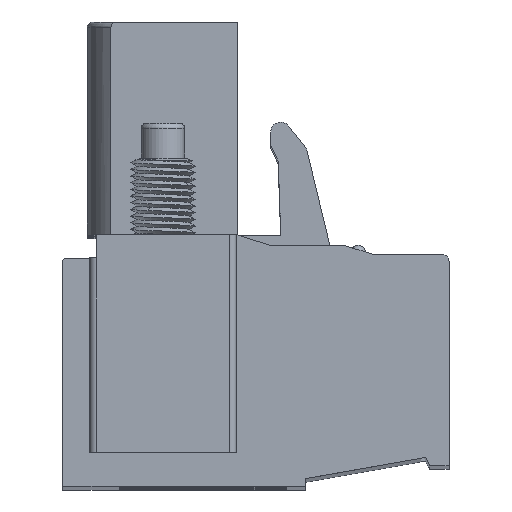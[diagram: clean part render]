
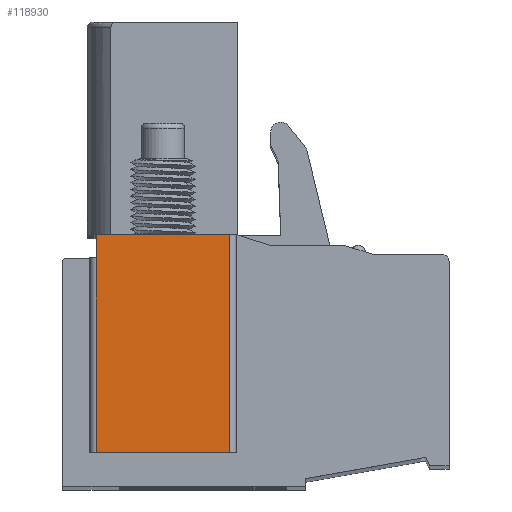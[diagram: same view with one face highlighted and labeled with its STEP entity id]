
A CAD part, top view. The second image highlights one B-rep face of the part: STEP entity #118930.
In plain terms, the highlighted planar face has unit normal (0, 0, 1).
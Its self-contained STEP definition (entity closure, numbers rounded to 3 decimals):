
#118930 = ADVANCED_FACE('',(#118931),#118945,.T.);
#118931 = FACE_BOUND('',#118932,.F.);
#118932 = EDGE_LOOP('',(#118933,#118956,#118972,#118988,#119004));
#118933 = ORIENTED_EDGE('',*,*,#118934,.F.);
#118934 = EDGE_CURVE('',#118935,#118937,#118939,.T.);
#118935 = VERTEX_POINT('',#118936);
#118936 = CARTESIAN_POINT('',(2.6,9.8,86.36));
#118937 = VERTEX_POINT('',#118938);
#118938 = CARTESIAN_POINT('',(-2.6,9.8,86.36));
#118939 = SURFACE_CURVE('',#118940,(#118944),.PCURVE_S1.);
#118940 = LINE('',#118941,#118942);
#118941 = CARTESIAN_POINT('',(2.6,9.8,86.36));
#118942 = VECTOR('',#118943,1.);
#118943 = DIRECTION('',(-1.,0.,0.));
#118944 = PCURVE('',#118945,#118950);
#118945 = PLANE('',#118946);
#118946 = AXIS2_PLACEMENT_3D('',#118947,#118948,#118949);
#118947 = CARTESIAN_POINT('',(-14.55,18.918,86.36));
#118948 = DIRECTION('',(0.,0.,1.));
#118949 = DIRECTION('',(0.,-1.,0.));
#118950 = DEFINITIONAL_REPRESENTATION('',(#118951),#118955);
#118951 = LINE('',#118952,#118953);
#118952 = CARTESIAN_POINT('',(9.118,17.15));
#118953 = VECTOR('',#118954,1.);
#118954 = DIRECTION('',(0.,-1.));
#118955 = ( GEOMETRIC_REPRESENTATION_CONTEXT(2) 
PARAMETRIC_REPRESENTATION_CONTEXT() REPRESENTATION_CONTEXT('2D SPACE',''
  ) );
#118956 = ORIENTED_EDGE('',*,*,#118957,.F.);
#118957 = EDGE_CURVE('',#118958,#118935,#118960,.T.);
#118958 = VERTEX_POINT('',#118959);
#118959 = CARTESIAN_POINT('',(2.6,1.3,86.36));
#118960 = SURFACE_CURVE('',#118961,(#118965),.PCURVE_S1.);
#118961 = LINE('',#118962,#118963);
#118962 = CARTESIAN_POINT('',(2.6,1.3,86.36));
#118963 = VECTOR('',#118964,1.);
#118964 = DIRECTION('',(0.,1.,0.));
#118965 = PCURVE('',#118945,#118966);
#118966 = DEFINITIONAL_REPRESENTATION('',(#118967),#118971);
#118967 = LINE('',#118968,#118969);
#118968 = CARTESIAN_POINT('',(17.618,17.15));
#118969 = VECTOR('',#118970,1.);
#118970 = DIRECTION('',(-1.,0.));
#118971 = ( GEOMETRIC_REPRESENTATION_CONTEXT(2) 
PARAMETRIC_REPRESENTATION_CONTEXT() REPRESENTATION_CONTEXT('2D SPACE',''
  ) );
#118972 = ORIENTED_EDGE('',*,*,#118973,.T.);
#118973 = EDGE_CURVE('',#118958,#118974,#118976,.T.);
#118974 = VERTEX_POINT('',#118975);
#118975 = CARTESIAN_POINT('',(-2.6,1.3,86.36));
#118976 = SURFACE_CURVE('',#118977,(#118981),.PCURVE_S1.);
#118977 = LINE('',#118978,#118979);
#118978 = CARTESIAN_POINT('',(2.6,1.3,86.36));
#118979 = VECTOR('',#118980,1.);
#118980 = DIRECTION('',(-1.,0.,0.));
#118981 = PCURVE('',#118945,#118982);
#118982 = DEFINITIONAL_REPRESENTATION('',(#118983),#118987);
#118983 = LINE('',#118984,#118985);
#118984 = CARTESIAN_POINT('',(17.618,17.15));
#118985 = VECTOR('',#118986,1.);
#118986 = DIRECTION('',(0.,-1.));
#118987 = ( GEOMETRIC_REPRESENTATION_CONTEXT(2) 
PARAMETRIC_REPRESENTATION_CONTEXT() REPRESENTATION_CONTEXT('2D SPACE',''
  ) );
#118988 = ORIENTED_EDGE('',*,*,#118989,.F.);
#118989 = EDGE_CURVE('',#118990,#118974,#118992,.T.);
#118990 = VERTEX_POINT('',#118991);
#118991 = CARTESIAN_POINT('',(-2.6,8.9,86.36));
#118992 = SURFACE_CURVE('',#118993,(#118997),.PCURVE_S1.);
#118993 = LINE('',#118994,#118995);
#118994 = CARTESIAN_POINT('',(-2.6,8.9,86.36));
#118995 = VECTOR('',#118996,1.);
#118996 = DIRECTION('',(0.,-1.,0.));
#118997 = PCURVE('',#118945,#118998);
#118998 = DEFINITIONAL_REPRESENTATION('',(#118999),#119003);
#118999 = LINE('',#119000,#119001);
#119000 = CARTESIAN_POINT('',(10.018,11.95));
#119001 = VECTOR('',#119002,1.);
#119002 = DIRECTION('',(1.,0.));
#119003 = ( GEOMETRIC_REPRESENTATION_CONTEXT(2) 
PARAMETRIC_REPRESENTATION_CONTEXT() REPRESENTATION_CONTEXT('2D SPACE',''
  ) );
#119004 = ORIENTED_EDGE('',*,*,#119005,.F.);
#119005 = EDGE_CURVE('',#118937,#118990,#119006,.T.);
#119006 = SURFACE_CURVE('',#119007,(#119011),.PCURVE_S1.);
#119007 = LINE('',#119008,#119009);
#119008 = CARTESIAN_POINT('',(-2.6,9.8,86.36));
#119009 = VECTOR('',#119010,1.);
#119010 = DIRECTION('',(0.,-1.,0.));
#119011 = PCURVE('',#118945,#119012);
#119012 = DEFINITIONAL_REPRESENTATION('',(#119013),#119017);
#119013 = LINE('',#119014,#119015);
#119014 = CARTESIAN_POINT('',(9.118,11.95));
#119015 = VECTOR('',#119016,1.);
#119016 = DIRECTION('',(1.,0.));
#119017 = ( GEOMETRIC_REPRESENTATION_CONTEXT(2) 
PARAMETRIC_REPRESENTATION_CONTEXT() REPRESENTATION_CONTEXT('2D SPACE',''
  ) );
